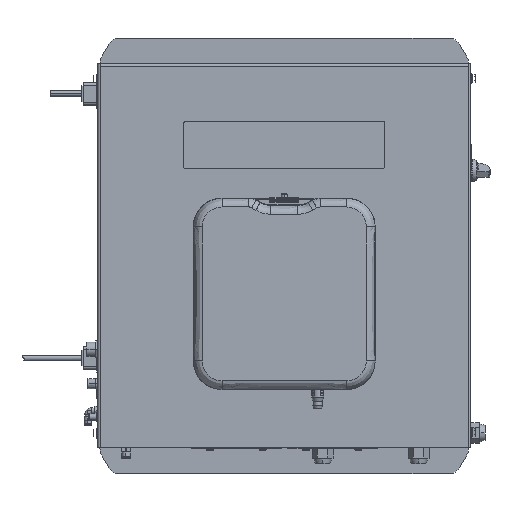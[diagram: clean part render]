
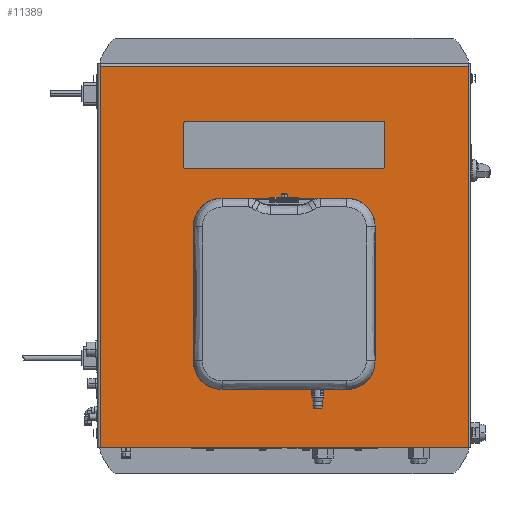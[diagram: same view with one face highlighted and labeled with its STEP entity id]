
A CAD part, top view. The second image highlights one B-rep face of the part: STEP entity #11389.
In plain terms, the highlighted planar face has unit normal (0, 0, 1).
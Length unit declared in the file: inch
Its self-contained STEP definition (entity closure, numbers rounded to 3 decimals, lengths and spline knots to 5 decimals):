
#10598=DIRECTION('',(1.,0.,0.));
#10599=VECTOR('',#10598,19.24);
#10600=CARTESIAN_POINT('',(-9.62,-10.04,9.06));
#10601=LINE('',#10600,#10599);
#10615=DIRECTION('',(0.,1.,0.));
#10616=VECTOR('',#10615,19.95);
#10617=CARTESIAN_POINT('',(-9.62,-10.04,9.06));
#10618=LINE('',#10617,#10616);
#11097=DIRECTION('',(0.,-1.,0.));
#11098=VECTOR('',#11097,19.95);
#11099=CARTESIAN_POINT('',(9.62,9.91,9.06));
#11100=LINE('',#11099,#11098);
#11136=DIRECTION('',(1.,0.,0.));
#11137=VECTOR('',#11136,19.24);
#11138=CARTESIAN_POINT('',(-9.62,9.91,9.06));
#11139=LINE('',#11138,#11137);
#11182=CARTESIAN_POINT('',(9.62,-10.04,9.06));
#11183=VERTEX_POINT('',#11182);
#11208=CARTESIAN_POINT('',(-9.62,-10.04,9.06));
#11209=VERTEX_POINT('',#11208);
#11358=CARTESIAN_POINT('',(-9.62,9.91,9.06));
#11359=CARTESIAN_POINT('',(9.62,9.91,9.06));
#11360=VERTEX_POINT('',#11358);
#11361=VERTEX_POINT('',#11359);
#11374=CARTESIAN_POINT('',(0.,-0.005,9.06));
#11375=DIRECTION('',(0.,0.,1.));
#11376=DIRECTION('',(1.,0.,0.));
#11377=AXIS2_PLACEMENT_3D('',#11374,#11375,#11376);
#11378=PLANE('',#11377);
#11380=ORIENTED_EDGE('',*,*,#11379,.T.);
#11382=ORIENTED_EDGE('',*,*,#11381,.T.);
#11384=ORIENTED_EDGE('',*,*,#11383,.T.);
#11386=ORIENTED_EDGE('',*,*,#11385,.F.);
#11387=EDGE_LOOP('',(#11380,#11382,#11384,#11386));
#11388=FACE_OUTER_BOUND('',#11387,.F.);
#11389=ADVANCED_FACE('',(#11388),#11378,.T.);
#11379=EDGE_CURVE('',#11209,#11360,#10618,.T.);
#11381=EDGE_CURVE('',#11360,#11361,#11139,.T.);
#11383=EDGE_CURVE('',#11361,#11183,#11100,.T.);
#11385=EDGE_CURVE('',#11209,#11183,#10601,.T.);
